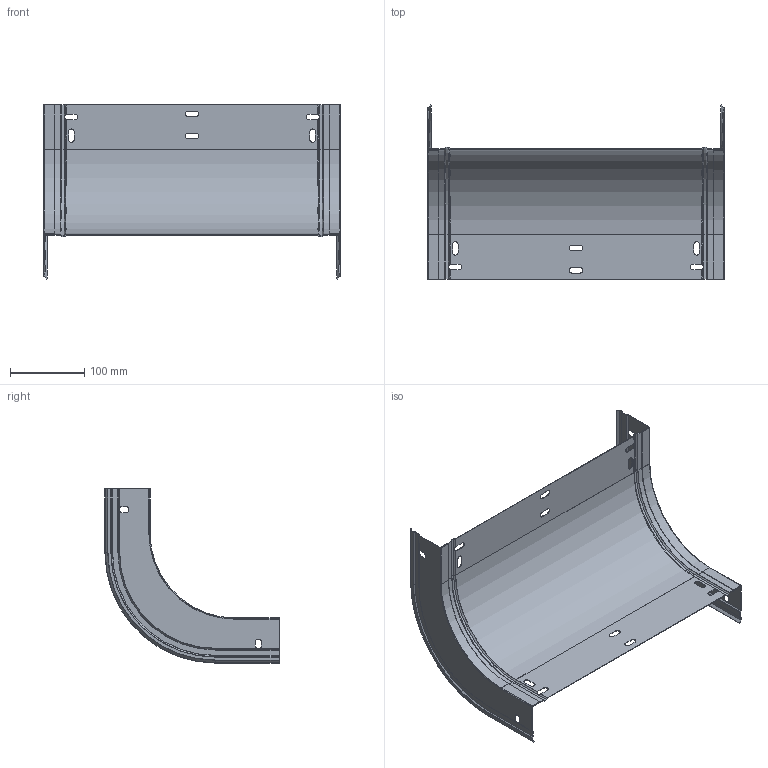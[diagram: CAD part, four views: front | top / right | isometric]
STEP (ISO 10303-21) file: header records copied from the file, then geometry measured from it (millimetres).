
FILE_DESCRIPTION (( 'STEP AP203' ), '1' );
FILE_NAME ('ERE_CONVEXA 400x60.step', '2023-07-27T18:49:05', ( '' ), ( '' ), 'SwSTEP 2.0', 'SolidWorks 2022', '' );
FILE_SCHEMA (( 'CONFIG_CONTROL_DESIGN' ));
Length unit declared in the file: millimetre
Products named in the file (3): ERE_LATERAL CX_60; ERE_CONVEXA 400x60; ERE_BASE CX_400
Assembly tree (3 placements, depth 2):
  ERE_CONVEXA 400x60
    ERE_BASE CX_400
    ERE_LATERAL CX_60  x2
Bounding box: 400 x 235.2 x 235.2 mm (x, y, z)
Volume: 140577.5 mm3; surface area: 354497.3 mm2
Topology: 3 solids, 3 shells, 232 faces, 632 edges, 394 vertices
Faces by surface type: plane 142, cylinder 64, cone 22, torus 4
Entity records: 5896 total; most frequent: CARTESIAN_POINT 1008, ORIENTED_EDGE 966, DIRECTION 957, EDGE_CURVE 483, VECTOR 343, LINE 343, AXIS2_PLACEMENT_3D 307, VERTEX_POINT 302
